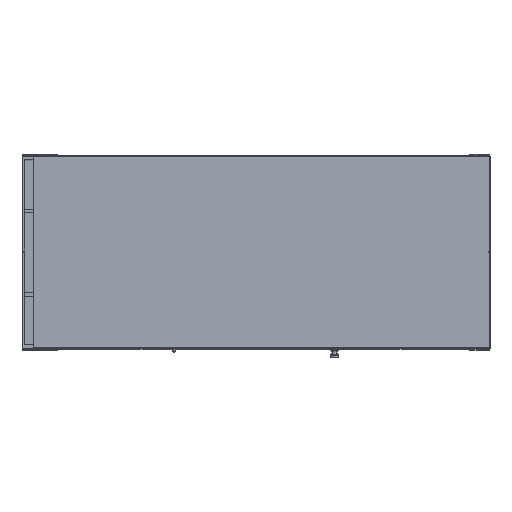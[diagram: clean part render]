
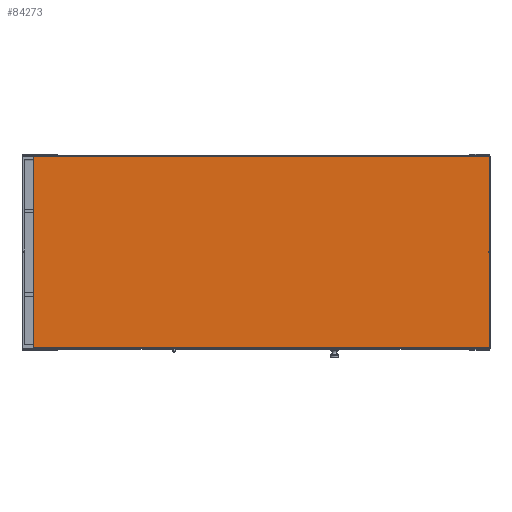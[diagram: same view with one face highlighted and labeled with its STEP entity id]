
A CAD part, top view. The second image highlights one B-rep face of the part: STEP entity #84273.
In plain terms, the highlighted planar face has unit normal (0, 0, 1) as drawn and (0, 1, 0) by its records, which use the part's own axes.
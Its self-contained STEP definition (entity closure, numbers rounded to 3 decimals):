
#11591=LINE('',#186065,#18374);
#11595=LINE('',#186073,#18378);
#11598=LINE('',#186079,#18381);
#11601=LINE('',#186085,#18384);
#11604=LINE('',#186091,#18387);
#11607=LINE('',#186097,#18390);
#11610=LINE('',#186103,#18393);
#11613=LINE('',#186108,#18396);
#18374=VECTOR('',#109401,10.);
#18378=VECTOR('',#109407,10.);
#18381=VECTOR('',#109412,10.);
#18384=VECTOR('',#109417,10.);
#18387=VECTOR('',#109422,10.);
#18390=VECTOR('',#109427,10.);
#18393=VECTOR('',#109432,10.);
#18396=VECTOR('',#109437,10.);
#23605=FACE_OUTER_BOUND('',#28817,.T.);
#28817=EDGE_LOOP('',(#70480,#70481,#70482,#70483,#70484,#70485,#70486,#70487));
#38890=VERTEX_POINT('',#186063);
#38891=VERTEX_POINT('',#186064);
#38894=VERTEX_POINT('',#186072);
#38896=VERTEX_POINT('',#186078);
#38898=VERTEX_POINT('',#186084);
#38900=VERTEX_POINT('',#186090);
#38902=VERTEX_POINT('',#186096);
#38904=VERTEX_POINT('',#186102);
#49754=EDGE_CURVE('',#38890,#38891,#11591,.T.);
#49758=EDGE_CURVE('',#38891,#38894,#11595,.T.);
#49761=EDGE_CURVE('',#38894,#38896,#11598,.T.);
#49764=EDGE_CURVE('',#38896,#38898,#11601,.T.);
#49767=EDGE_CURVE('',#38900,#38898,#11604,.T.);
#49770=EDGE_CURVE('',#38902,#38900,#11607,.T.);
#49773=EDGE_CURVE('',#38904,#38902,#11610,.T.);
#49776=EDGE_CURVE('',#38904,#38890,#11613,.T.);
#70480=ORIENTED_EDGE('',*,*,#49776,.T.);
#70481=ORIENTED_EDGE('',*,*,#49754,.T.);
#70482=ORIENTED_EDGE('',*,*,#49758,.T.);
#70483=ORIENTED_EDGE('',*,*,#49761,.T.);
#70484=ORIENTED_EDGE('',*,*,#49764,.T.);
#70485=ORIENTED_EDGE('',*,*,#49767,.F.);
#70486=ORIENTED_EDGE('',*,*,#49770,.F.);
#70487=ORIENTED_EDGE('',*,*,#49773,.F.);
#80391=PLANE('',#91676);
#84273=ADVANCED_FACE('',(#23605),#80391,.T.);
#91676=AXIS2_PLACEMENT_3D('',#186110,#109439,#109440);
#109401=DIRECTION('',(-1.,0.,0.));
#109407=DIRECTION('',(0.,0.,1.));
#109412=DIRECTION('',(1.,0.,0.));
#109417=DIRECTION('',(0.,0.,-1.));
#109422=DIRECTION('',(1.,0.,0.));
#109427=DIRECTION('',(0.,0.,1.));
#109432=DIRECTION('',(-1.,0.,0.));
#109437=DIRECTION('',(0.,0.,-1.));
#109439=DIRECTION('center_axis',(0.,1.,0.));
#109440=DIRECTION('ref_axis',(1.,0.,0.));
#186063=CARTESIAN_POINT('',(2218.,2202.,-910.));
#186064=CARTESIAN_POINT('',(52.,2202.,-910.));
#186065=CARTESIAN_POINT('',(2218.,2202.,-910.));
#186072=CARTESIAN_POINT('',(52.,2202.,-2.));
#186073=CARTESIAN_POINT('',(52.,2202.,-910.));
#186078=CARTESIAN_POINT('',(2218.,2202.,-2.));
#186079=CARTESIAN_POINT('',(52.,2202.,-2.));
#186084=CARTESIAN_POINT('',(2218.,2202.,-454.5));
#186085=CARTESIAN_POINT('',(2218.,2202.,-2.));
#186090=CARTESIAN_POINT('',(2212.,2202.,-454.5));
#186091=CARTESIAN_POINT('',(2212.,2202.,-454.5));
#186096=CARTESIAN_POINT('',(2212.,2202.,-457.5));
#186097=CARTESIAN_POINT('',(2212.,2202.,-457.5));
#186102=CARTESIAN_POINT('',(2218.,2202.,-457.5));
#186103=CARTESIAN_POINT('',(2218.,2202.,-457.5));
#186108=CARTESIAN_POINT('',(2218.,2202.,-2.));
#186110=CARTESIAN_POINT('Origin',(1135.,2202.,-456.));
